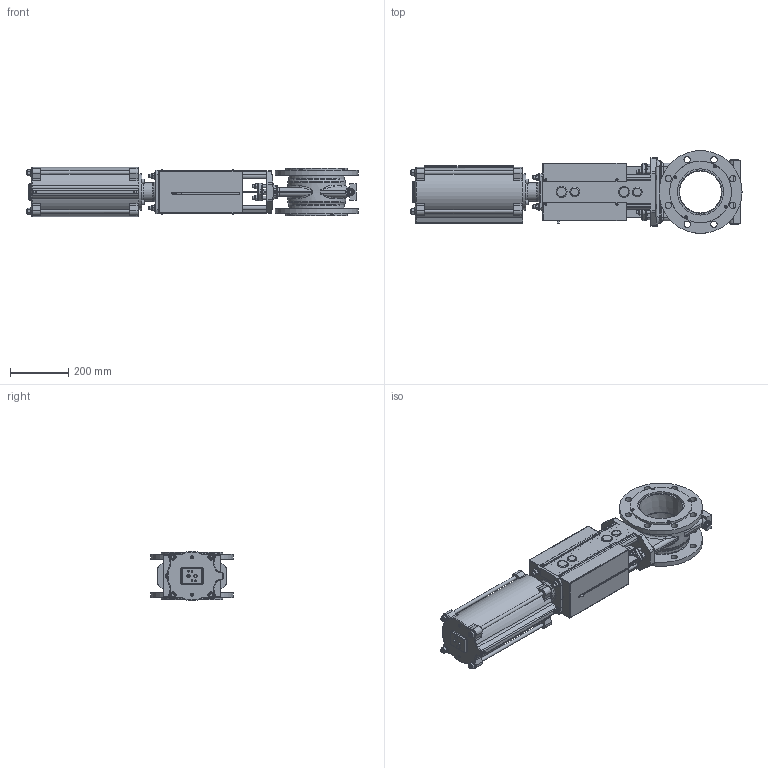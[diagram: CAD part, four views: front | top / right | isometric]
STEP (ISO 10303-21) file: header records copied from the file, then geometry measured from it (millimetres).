
FILE_DESCRIPTION(/* description */ (''),/* implementation_level */ '2;1');
FILE_NAME(/* name */ 'F:\Emir\3D-block special\SLV\SLF-DN150-PN10-FRSC160-215-LDR.stp',/* time_stamp */ '2018-10-10T17:10:53+02:00',/* author */ ('emimus'),/* organization */ (''),/* preprocessor_version */ 'ST-DEVELOPER v17.2',/* originating_system */ 'Autodesk Inventor 2019',/* authorisation */ '');
FILE_SCHEMA (('CONFIG_CONTROL_DESIGN'));
Products named in the file (1): SLF-DN150-PN10-FRSC160-215-LDR
Bounding box: 1141.5 x 285 x 170 mm (x, y, z)
Volume: 9141708 mm3; surface area: 2090406 mm2
Topology: 1 solids, 1 shells, 2286 faces, 5952 edges, 3747 vertices
Faces by surface type: plane 911, cylinder 587, bspline 261, cone 250, torus 213, sphere 64
Full cylindrical faces by diameter (mm): 3.5 x8, 3.6 x8, 4 x6, 4.134 x4, 4.5 x4, 4.917 x4, 6 x1, 6.647 x8, 8 x2, 8.376 x2, 8.5 x8, 8.88 x1, 9.5 x4, 10 x23, 10.5 x4, 11.445 x2, 12 x26, 13 x13, 15 x4, 16 x6, 17.7 x1, 18 x4, 19 x4, 20 x5, 20.5 x1, 22 x16, 23 x4, 24 x12, 25.8 x2, 28 x4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
Entity records: 82069 total; most frequent: CARTESIAN_POINT 26807, ORIENTED_EDGE 11776, DIRECTION 11726, EDGE_CURVE 5888, AXIS2_PLACEMENT_3D 4833, VERTEX_POINT 3747, EDGE_LOOP 2579, CIRCLE 2525
